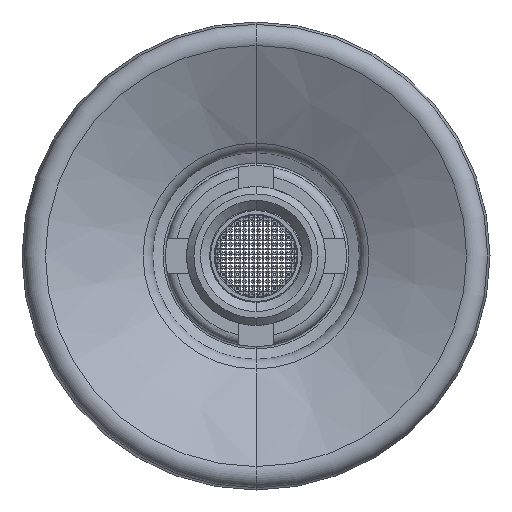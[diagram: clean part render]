
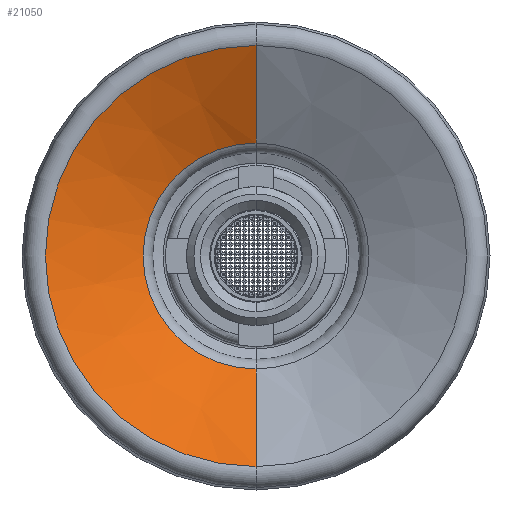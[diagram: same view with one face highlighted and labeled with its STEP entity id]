
A CAD part, front view. The second image highlights one B-rep face of the part: STEP entity #21050.
In plain terms, the highlighted conical face has half-angle 63.116 degrees and reference radius 12.191 mm.
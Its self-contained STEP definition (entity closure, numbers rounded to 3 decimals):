
#4009 = VERTEX_POINT ( 'NONE', #43975 ) ;
#5055 = AXIS2_PLACEMENT_3D ( 'NONE', #44800, #32019, #23810 ) ;
#9268 = AXIS2_PLACEMENT_3D ( 'NONE', #44966, #14351, #35586 ) ;
#10586 = EDGE_CURVE ( 'NONE', #46305, #4009, #54345, .T. ) ;
#10688 = DIRECTION ( 'NONE',  ( 0., -0.452, 0.892 ) ) ;
#11299 = CARTESIAN_POINT ( 'NONE',  ( 0., -30.686, 0. ) ) ;
#11439 = EDGE_LOOP ( 'NONE', ( #48720, #51124, #38796, #20237 ) ) ;
#12284 = CARTESIAN_POINT ( 'NONE',  ( 0., -30.686, -12.191 ) ) ;
#13611 = VERTEX_POINT ( 'NONE', #12284 ) ;
#14351 = DIRECTION ( 'NONE',  ( 0., 1., 0. ) ) ;
#15854 = FACE_OUTER_BOUND ( 'NONE', #11439, .T. ) ;
#16179 = EDGE_CURVE ( 'NONE', #13611, #46305, #21332, .T. ) ;
#18911 = CARTESIAN_POINT ( 'NONE',  ( 0., -30.686, 12.191 ) ) ;
#19963 = LINE ( 'NONE', #55946, #27874 ) ;
#20237 = ORIENTED_EDGE ( 'NONE', *, *, #50731, .F. ) ;
#21050 = ADVANCED_FACE ( 'NONE', ( #15854 ), #50684, .F. ) ;
#21332 = CIRCLE ( 'NONE', #5055, 12.191 ) ;
#23810 = DIRECTION ( 'NONE',  ( 0., 0., 1. ) ) ;
#25735 = DIRECTION ( 'NONE',  ( 0., 0., -1. ) ) ;
#27874 = VECTOR ( 'NONE', #48283, 1000. ) ;
#30759 = CARTESIAN_POINT ( 'NONE',  ( 0., -30.686, 12.191 ) ) ;
#32019 = DIRECTION ( 'NONE',  ( 0., 1., 0. ) ) ;
#33918 = VERTEX_POINT ( 'NONE', #38973 ) ;
#35586 = DIRECTION ( 'NONE',  ( 0., 0., 1. ) ) ;
#37746 = EDGE_CURVE ( 'NONE', #33918, #4009, #52704, .T. ) ;
#38796 = ORIENTED_EDGE ( 'NONE', *, *, #37746, .F. ) ;
#38973 = CARTESIAN_POINT ( 'NONE',  ( 0., -36.027, -22.727 ) ) ;
#43588 = DIRECTION ( 'NONE',  ( 0., -1., 0. ) ) ;
#43975 = CARTESIAN_POINT ( 'NONE',  ( 0., -36.027, 22.727 ) ) ;
#44800 = CARTESIAN_POINT ( 'NONE',  ( 0., -30.686, 0. ) ) ;
#44966 = CARTESIAN_POINT ( 'NONE',  ( 0., -36.027, 0. ) ) ;
#45485 = VECTOR ( 'NONE', #10688, 1000. ) ;
#46305 = VERTEX_POINT ( 'NONE', #30759 ) ;
#47035 = AXIS2_PLACEMENT_3D ( 'NONE', #11299, #43588, #25735 ) ;
#48283 = DIRECTION ( 'NONE',  ( 0., -0.452, -0.892 ) ) ;
#48720 = ORIENTED_EDGE ( 'NONE', *, *, #16179, .T. ) ;
#50684 = CONICAL_SURFACE ( 'NONE', #47035, 12.191, 1.102 ) ;
#50731 = EDGE_CURVE ( 'NONE', #13611, #33918, #19963, .T. ) ;
#51124 = ORIENTED_EDGE ( 'NONE', *, *, #10586, .T. ) ;
#52704 = CIRCLE ( 'NONE', #9268, 22.727 ) ;
#54345 = LINE ( 'NONE', #18911, #45485 ) ;
#55946 = CARTESIAN_POINT ( 'NONE',  ( 0., -30.686, -12.191 ) ) ;
